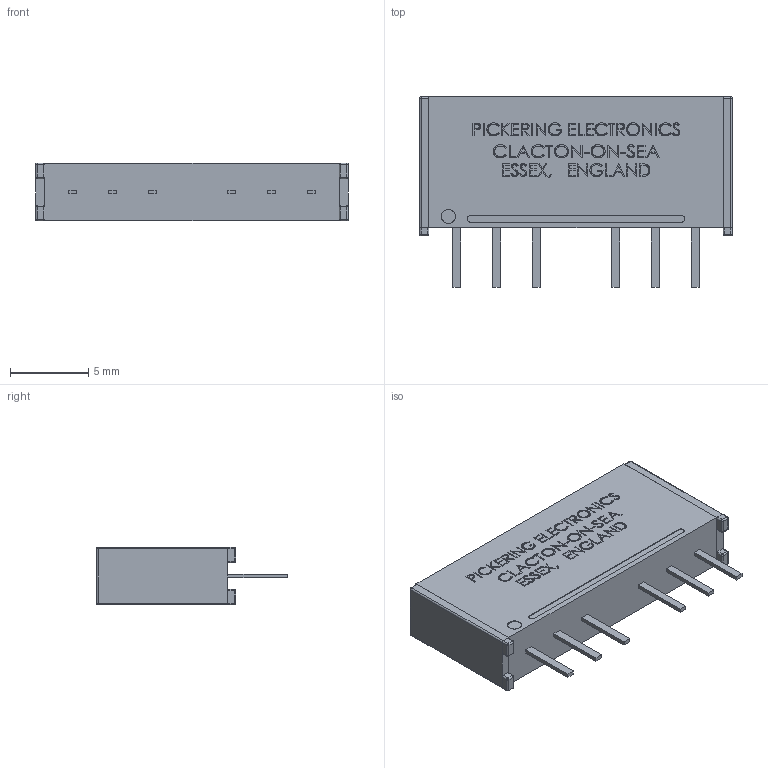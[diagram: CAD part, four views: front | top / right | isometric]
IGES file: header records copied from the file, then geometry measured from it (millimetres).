
Start section: SolidWorks IGES file using analytic representation for surfaces
Global section: file name: T:\Relays in Solidworks\Batch 1 .IGES\108-2-A.IGS; native system: SolidWorks 2009; preprocessor: SolidWorks 2009; author: alex.leming; date: 100629.115120; units: millimetre
Bounding box: 20 x 12.2 x 3.7 mm (x, y, z)
Surface area: 728.7 mm2 (no closed solid volume)
Topology: 0 solids, 0 shells, 1108 faces, 9269 edges, 9249 vertices
Faces by surface type: bspline 1038, revolution 70
